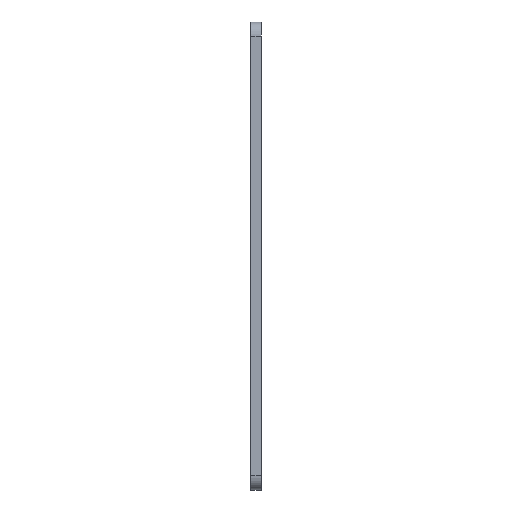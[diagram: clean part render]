
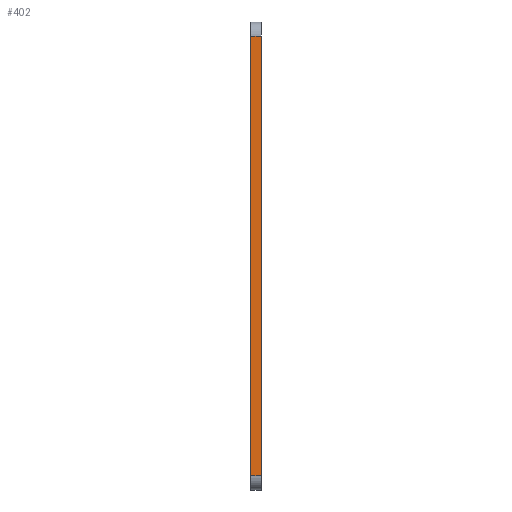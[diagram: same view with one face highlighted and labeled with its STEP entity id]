
A CAD part, left-side view. The second image highlights one B-rep face of the part: STEP entity #402.
In plain terms, the highlighted planar face has unit normal (-1, 0, 0).
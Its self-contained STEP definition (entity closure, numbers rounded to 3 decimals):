
#38 = ORIENTED_EDGE ( 'NONE', *, *, #90, .F. ) ;
#39 = CARTESIAN_POINT ( 'NONE',  ( -23.539, 2., 40.563 ) ) ;
#47 = EDGE_CURVE ( 'NONE', #559, #723, #73, .T. ) ;
#52 = CARTESIAN_POINT ( 'NONE',  ( -23.539, 0., 40.563 ) ) ;
#56 = LINE ( 'NONE', #109, #506 ) ;
#73 = LINE ( 'NONE', #701, #353 ) ;
#89 = ORIENTED_EDGE ( 'NONE', *, *, #47, .F. ) ;
#90 = EDGE_CURVE ( 'NONE', #204, #559, #56, .T. ) ;
#102 = CARTESIAN_POINT ( 'NONE',  ( -23.539, 2., -40.237 ) ) ;
#106 = DIRECTION ( 'NONE',  ( 0., 0., -1. ) ) ;
#109 = CARTESIAN_POINT ( 'NONE',  ( -23.539, 2., 40.563 ) ) ;
#141 = PLANE ( 'NONE',  #609 ) ;
#162 = DIRECTION ( 'NONE',  ( 0., -1., 0. ) ) ;
#180 = VECTOR ( 'NONE', #569, 1000. ) ;
#199 = DIRECTION ( 'NONE',  ( 0., -1., 0. ) ) ;
#204 = VERTEX_POINT ( 'NONE', #102 ) ;
#238 = CARTESIAN_POINT ( 'NONE',  ( -23.539, 0., 40.563 ) ) ;
#266 = CARTESIAN_POINT ( 'NONE',  ( -23.539, 0., -40.237 ) ) ;
#287 = VECTOR ( 'NONE', #162, 1000. ) ;
#327 = CARTESIAN_POINT ( 'NONE',  ( -23.539, 2., -40.237 ) ) ;
#353 = VECTOR ( 'NONE', #199, 1000. ) ;
#402 = ADVANCED_FACE ( 'NONE', ( #617 ), #141, .F. ) ;
#425 = LINE ( 'NONE', #327, #287 ) ;
#429 = DIRECTION ( 'NONE',  ( 1., 0., 0. ) ) ;
#433 = DIRECTION ( 'NONE',  ( 0., 0., 1. ) ) ;
#439 = EDGE_LOOP ( 'NONE', ( #648, #89, #38, #728 ) ) ;
#443 = EDGE_CURVE ( 'NONE', #204, #590, #425, .T. ) ;
#451 = LINE ( 'NONE', #238, #180 ) ;
#453 = CARTESIAN_POINT ( 'NONE',  ( -23.539, 2., 40.563 ) ) ;
#506 = VECTOR ( 'NONE', #433, 1000. ) ;
#559 = VERTEX_POINT ( 'NONE', #453 ) ;
#569 = DIRECTION ( 'NONE',  ( 0., 0., 1. ) ) ;
#590 = VERTEX_POINT ( 'NONE', #266 ) ;
#609 = AXIS2_PLACEMENT_3D ( 'NONE', #39, #429, #106 ) ;
#617 = FACE_OUTER_BOUND ( 'NONE', #439, .T. ) ;
#648 = ORIENTED_EDGE ( 'NONE', *, *, #654, .T. ) ;
#654 = EDGE_CURVE ( 'NONE', #590, #723, #451, .T. ) ;
#701 = CARTESIAN_POINT ( 'NONE',  ( -23.539, 2., 40.563 ) ) ;
#723 = VERTEX_POINT ( 'NONE', #52 ) ;
#728 = ORIENTED_EDGE ( 'NONE', *, *, #443, .T. ) ;
